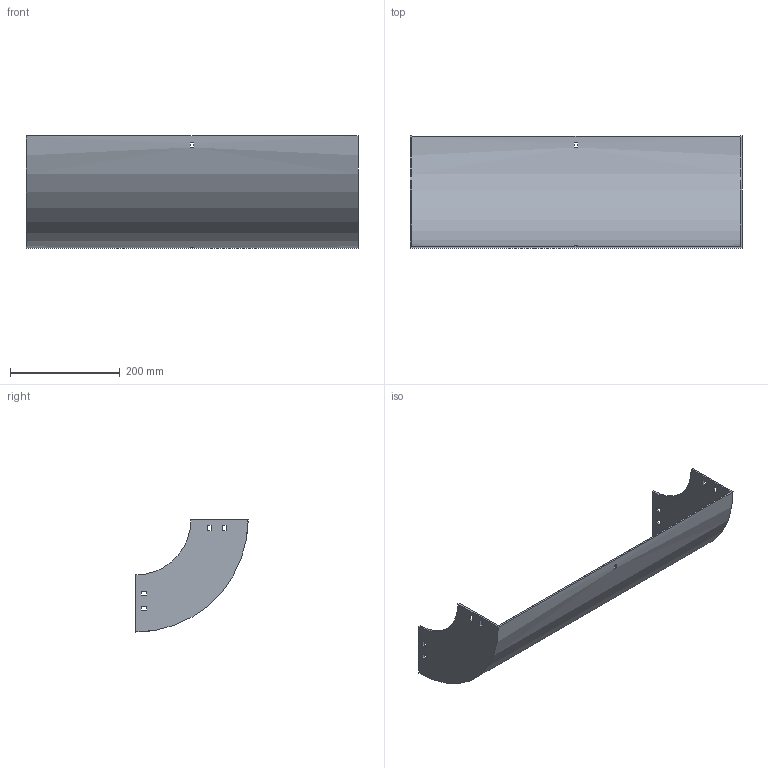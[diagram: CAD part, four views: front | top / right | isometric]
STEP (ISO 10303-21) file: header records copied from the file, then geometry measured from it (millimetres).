
FILE_DESCRIPTION (( 'STEP AP214' ), '1' );
FILE_NAME ('30B1D600.step', '2025-02-21T09:48:51', ( '' ), ( '' ), 'SwSTEP 2.0', 'SolidWorks 2023', '' );
FILE_SCHEMA (( 'AUTOMOTIVE_DESIGN' ));
Length unit declared in the file: millimetre
Products named in the file (1): 30B1D600
Bounding box: 604 x 204 x 204 mm (x, y, z)
Volume: 835267.8 mm3; surface area: 485219.5 mm2
Topology: 1 solids, 1 shells, 50 faces, 144 edges, 96 vertices
Faces by surface type: plane 46, cylinder 4
Entity records: 1687 total; most frequent: CARTESIAN_POINT 291, ORIENTED_EDGE 288, DIRECTION 262, EDGE_CURVE 144, LINE 128, VECTOR 128, VERTEX_POINT 96, EDGE_LOOP 70
